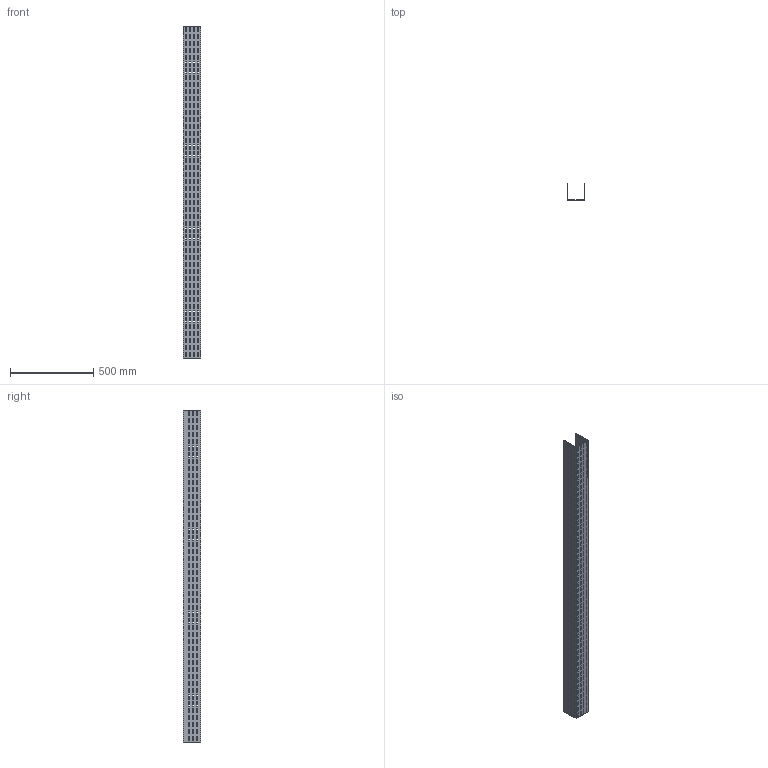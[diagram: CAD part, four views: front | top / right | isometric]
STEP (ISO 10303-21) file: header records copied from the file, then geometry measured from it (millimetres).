
FILE_DESCRIPTION (( 'STEP AP214' ), '1' );
FILE_NAME ('01F2D100.step', '2025-02-21T13:08:46', ( '' ), ( '' ), 'SwSTEP 2.0', 'SolidWorks 2023', '' );
FILE_SCHEMA (( 'AUTOMOTIVE_DESIGN' ));
Length unit declared in the file: millimetre
Products named in the file (1): 01F2D100
Bounding box: 104 x 104 x 2000 mm (x, y, z)
Volume: 1841000 mm3; surface area: 1175655 mm2
Topology: 1 solids, 1 shells, 1930 faces, 5784 edges, 3856 vertices
Faces by surface type: plane 1930
Entity records: 65591 total; most frequent: CARTESIAN_POINT 11571, ORIENTED_EDGE 11568, DIRECTION 9646, EDGE_CURVE 5784, VECTOR 5784, LINE 5784, VERTEX_POINT 3856, EDGE_LOOP 2890
